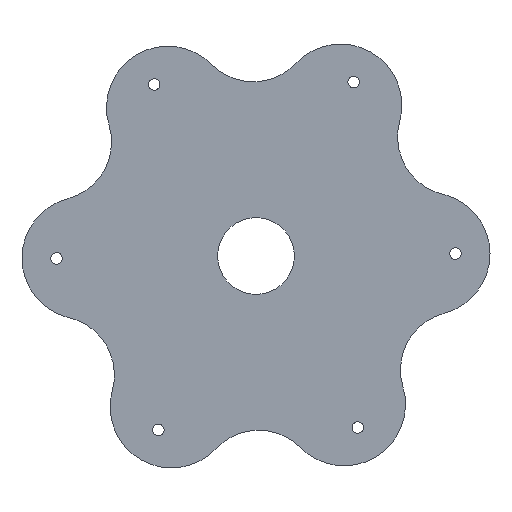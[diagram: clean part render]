
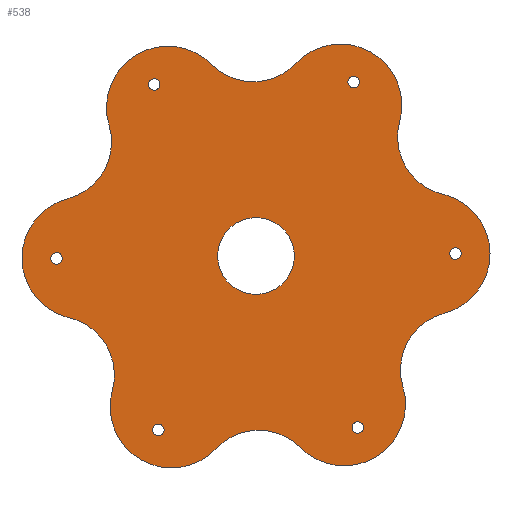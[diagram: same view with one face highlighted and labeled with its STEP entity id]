
A CAD part, front view. The second image highlights one B-rep face of the part: STEP entity #538.
In plain terms, the highlighted planar face has unit normal (0, -1, 0).
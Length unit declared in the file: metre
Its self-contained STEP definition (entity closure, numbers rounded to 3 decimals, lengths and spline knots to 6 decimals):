
#125=ORIENTED_EDGE('',*,*,#273,.F.);
#126=ORIENTED_EDGE('',*,*,#274,.T.);
#127=ORIENTED_EDGE('',*,*,#275,.T.);
#128=ORIENTED_EDGE('',*,*,#276,.T.);
#129=ORIENTED_EDGE('',*,*,#277,.T.);
#130=ORIENTED_EDGE('',*,*,#278,.T.);
#131=ORIENTED_EDGE('',*,*,#279,.T.);
#132=ORIENTED_EDGE('',*,*,#280,.T.);
#133=ORIENTED_EDGE('',*,*,#281,.T.);
#134=ORIENTED_EDGE('',*,*,#282,.T.);
#135=ORIENTED_EDGE('',*,*,#283,.T.);
#136=ORIENTED_EDGE('',*,*,#284,.T.);
#137=ORIENTED_EDGE('',*,*,#285,.T.);
#138=ORIENTED_EDGE('',*,*,#286,.F.);
#139=ORIENTED_EDGE('',*,*,#287,.F.);
#140=ORIENTED_EDGE('',*,*,#288,.F.);
#141=ORIENTED_EDGE('',*,*,#289,.F.);
#142=ORIENTED_EDGE('',*,*,#290,.F.);
#143=ORIENTED_EDGE('',*,*,#291,.F.);
#273=EDGE_CURVE('',#347,#347,#397,.T.);
#274=EDGE_CURVE('',#348,#349,#398,.T.);
#275=EDGE_CURVE('',#349,#350,#399,.T.);
#276=EDGE_CURVE('',#350,#351,#400,.T.);
#277=EDGE_CURVE('',#351,#352,#401,.T.);
#278=EDGE_CURVE('',#352,#353,#402,.T.);
#279=EDGE_CURVE('',#353,#354,#403,.T.);
#280=EDGE_CURVE('',#354,#355,#404,.T.);
#281=EDGE_CURVE('',#355,#356,#405,.T.);
#282=EDGE_CURVE('',#356,#357,#406,.T.);
#283=EDGE_CURVE('',#357,#358,#407,.T.);
#284=EDGE_CURVE('',#358,#359,#408,.T.);
#285=EDGE_CURVE('',#359,#348,#409,.T.);
#286=EDGE_CURVE('',#360,#360,#410,.T.);
#287=EDGE_CURVE('',#361,#361,#411,.T.);
#288=EDGE_CURVE('',#362,#362,#412,.T.);
#289=EDGE_CURVE('',#363,#363,#413,.T.);
#290=EDGE_CURVE('',#364,#364,#414,.T.);
#291=EDGE_CURVE('',#365,#365,#415,.T.);
#347=VERTEX_POINT('',#874);
#348=VERTEX_POINT('',#876);
#349=VERTEX_POINT('',#877);
#350=VERTEX_POINT('',#879);
#351=VERTEX_POINT('',#881);
#352=VERTEX_POINT('',#883);
#353=VERTEX_POINT('',#885);
#354=VERTEX_POINT('',#887);
#355=VERTEX_POINT('',#889);
#356=VERTEX_POINT('',#891);
#357=VERTEX_POINT('',#893);
#358=VERTEX_POINT('',#895);
#359=VERTEX_POINT('',#897);
#360=VERTEX_POINT('',#900);
#361=VERTEX_POINT('',#902);
#362=VERTEX_POINT('',#904);
#363=VERTEX_POINT('',#906);
#364=VERTEX_POINT('',#908);
#365=VERTEX_POINT('',#910);
#397=CIRCLE('',#601,0.01001);
#398=CIRCLE('',#602,0.016);
#399=CIRCLE('',#603,0.015288);
#400=CIRCLE('',#604,0.016);
#401=CIRCLE('',#605,0.015288);
#402=CIRCLE('',#606,0.016);
#403=CIRCLE('',#607,0.015288);
#404=CIRCLE('',#608,0.016);
#405=CIRCLE('',#609,0.015288);
#406=CIRCLE('',#610,0.016);
#407=CIRCLE('',#611,0.015288);
#408=CIRCLE('',#612,0.016);
#409=CIRCLE('',#613,0.015288);
#410=CIRCLE('',#614,0.0015);
#411=CIRCLE('',#615,0.0015);
#412=CIRCLE('',#616,0.0015);
#413=CIRCLE('',#617,0.0015);
#414=CIRCLE('',#618,0.0015);
#415=CIRCLE('',#619,0.0015);
#425=EDGE_LOOP('',(#125));
#426=EDGE_LOOP('',(#126,#127,#128,#129,#130,#131,#132,#133,#134,#135,#136,
#137));
#427=EDGE_LOOP('',(#138));
#428=EDGE_LOOP('',(#139));
#429=EDGE_LOOP('',(#140));
#430=EDGE_LOOP('',(#141));
#431=EDGE_LOOP('',(#142));
#432=EDGE_LOOP('',(#143));
#479=FACE_BOUND('',#425,.T.);
#480=FACE_BOUND('',#426,.T.);
#481=FACE_BOUND('',#427,.T.);
#482=FACE_BOUND('',#428,.T.);
#483=FACE_BOUND('',#429,.T.);
#484=FACE_BOUND('',#430,.T.);
#485=FACE_BOUND('',#431,.T.);
#486=FACE_BOUND('',#432,.T.);
#526=PLANE('',#600);
#538=ADVANCED_FACE('',(#479,#480,#481,#482,#483,#484,#485,#486),#526,.T.);
#600=AXIS2_PLACEMENT_3D('',#872,#694,#695);
#601=AXIS2_PLACEMENT_3D('',#873,#696,#697);
#602=AXIS2_PLACEMENT_3D('',#875,#698,#699);
#603=AXIS2_PLACEMENT_3D('',#878,#700,#701);
#604=AXIS2_PLACEMENT_3D('',#880,#702,#703);
#605=AXIS2_PLACEMENT_3D('',#882,#704,#705);
#606=AXIS2_PLACEMENT_3D('',#884,#706,#707);
#607=AXIS2_PLACEMENT_3D('',#886,#708,#709);
#608=AXIS2_PLACEMENT_3D('',#888,#710,#711);
#609=AXIS2_PLACEMENT_3D('',#890,#712,#713);
#610=AXIS2_PLACEMENT_3D('',#892,#714,#715);
#611=AXIS2_PLACEMENT_3D('',#894,#716,#717);
#612=AXIS2_PLACEMENT_3D('',#896,#718,#719);
#613=AXIS2_PLACEMENT_3D('',#898,#720,#721);
#614=AXIS2_PLACEMENT_3D('',#899,#722,#723);
#615=AXIS2_PLACEMENT_3D('',#901,#724,#725);
#616=AXIS2_PLACEMENT_3D('',#903,#726,#727);
#617=AXIS2_PLACEMENT_3D('',#905,#728,#729);
#618=AXIS2_PLACEMENT_3D('',#907,#730,#731);
#619=AXIS2_PLACEMENT_3D('',#909,#732,#733);
#694=DIRECTION('',(0.,-1.,0.));
#695=DIRECTION('',(-0.012,0.,1.));
#696=DIRECTION('',(0.,-1.,0.));
#697=DIRECTION('',(-0.012,0.,1.));
#698=DIRECTION('',(0.,-1.,0.));
#699=DIRECTION('',(-0.012,0.,1.));
#700=DIRECTION('',(0.,1.,0.));
#701=DIRECTION('',(-0.012,0.,1.));
#702=DIRECTION('',(0.,-1.,0.));
#703=DIRECTION('',(-0.012,0.,1.));
#704=DIRECTION('',(0.,1.,0.));
#705=DIRECTION('',(-0.012,0.,1.));
#706=DIRECTION('',(0.,-1.,0.));
#707=DIRECTION('',(-0.012,0.,1.));
#708=DIRECTION('',(0.,1.,0.));
#709=DIRECTION('',(-0.012,0.,1.));
#710=DIRECTION('',(0.,-1.,0.));
#711=DIRECTION('',(-0.012,0.,1.));
#712=DIRECTION('',(0.,1.,0.));
#713=DIRECTION('',(-0.012,0.,1.));
#714=DIRECTION('',(0.,-1.,0.));
#715=DIRECTION('',(-0.012,0.,1.));
#716=DIRECTION('',(0.,1.,0.));
#717=DIRECTION('',(-0.012,0.,1.));
#718=DIRECTION('',(0.,-1.,0.));
#719=DIRECTION('',(-0.012,0.,1.));
#720=DIRECTION('',(0.,1.,0.));
#721=DIRECTION('',(-0.012,0.,1.));
#722=DIRECTION('',(0.,-1.,0.));
#723=DIRECTION('',(-0.012,0.,1.));
#724=DIRECTION('',(0.,-1.,0.));
#725=DIRECTION('',(-0.012,0.,1.));
#726=DIRECTION('',(0.,-1.,0.));
#727=DIRECTION('',(-0.012,0.,1.));
#728=DIRECTION('',(0.,-1.,0.));
#729=DIRECTION('',(-0.012,0.,1.));
#730=DIRECTION('',(0.,-1.,0.));
#731=DIRECTION('',(-0.012,0.,1.));
#732=DIRECTION('',(0.,-1.,0.));
#733=DIRECTION('',(-0.012,0.,1.));
#872=CARTESIAN_POINT('',(-0.000051,0.01951,0.000635));
#873=CARTESIAN_POINT('',(-0.000051,0.01951,0.000635));
#874=CARTESIAN_POINT('',(-0.000171,0.01951,0.010644));
#875=CARTESIAN_POINT('',(0.022915,0.01951,-0.038064));
#876=CARTESIAN_POINT('',(0.011543,0.01951,-0.049319));
#877=CARTESIAN_POINT('',(0.038243,0.01951,-0.033474));
#878=CARTESIAN_POINT('',(0.052888,0.01951,-0.029089));
#879=CARTESIAN_POINT('',(0.049008,0.01951,-0.014302));
#880=CARTESIAN_POINT('',(0.044946,0.01951,0.001174));
#881=CARTESIAN_POINT('',(0.048635,0.01951,0.016743));
#882=CARTESIAN_POINT('',(0.05216,0.01951,0.031619));
#883=CARTESIAN_POINT('',(0.037414,0.01951,0.035652));
#884=CARTESIAN_POINT('',(0.021981,0.01951,0.039873));
#885=CARTESIAN_POINT('',(0.010342,0.01951,0.050852));
#886=CARTESIAN_POINT('',(-0.000778,0.01951,0.061343));
#887=CARTESIAN_POINT('',(-0.011644,0.01951,0.050588));
#888=CARTESIAN_POINT('',(-0.023016,0.01951,0.039333));
#889=CARTESIAN_POINT('',(-0.038344,0.01951,0.034744));
#890=CARTESIAN_POINT('',(-0.052989,0.01951,0.030358));
#891=CARTESIAN_POINT('',(-0.049109,0.01951,0.015571));
#892=CARTESIAN_POINT('',(-0.045047,0.01951,0.000095));
#893=CARTESIAN_POINT('',(-0.048736,0.01951,-0.015474));
#894=CARTESIAN_POINT('',(-0.052261,0.01951,-0.03035));
#895=CARTESIAN_POINT('',(-0.037515,0.01951,-0.034383));
#896=CARTESIAN_POINT('',(-0.022082,0.01951,-0.038603));
#897=CARTESIAN_POINT('',(-0.010443,0.01951,-0.049583));
#898=CARTESIAN_POINT('',(0.000677,0.01951,-0.060073));
#899=CARTESIAN_POINT('',(-0.052047,0.01951,0.000011));
#900=CARTESIAN_POINT('',(-0.052065,0.01951,0.001511));
#901=CARTESIAN_POINT('',(-0.025509,0.01951,-0.044707));
#902=CARTESIAN_POINT('',(-0.025527,0.01951,-0.043207));
#903=CARTESIAN_POINT('',(0.026488,0.01951,-0.044084));
#904=CARTESIAN_POINT('',(0.02647,0.01951,-0.042584));
#905=CARTESIAN_POINT('',(0.051946,0.01951,0.001258));
#906=CARTESIAN_POINT('',(0.051928,0.01951,0.002758));
#907=CARTESIAN_POINT('',(0.025408,0.01951,0.045976));
#908=CARTESIAN_POINT('',(0.02539,0.01951,0.047476));
#909=CARTESIAN_POINT('',(-0.026589,0.01951,0.045353));
#910=CARTESIAN_POINT('',(-0.026607,0.01951,0.046853));
